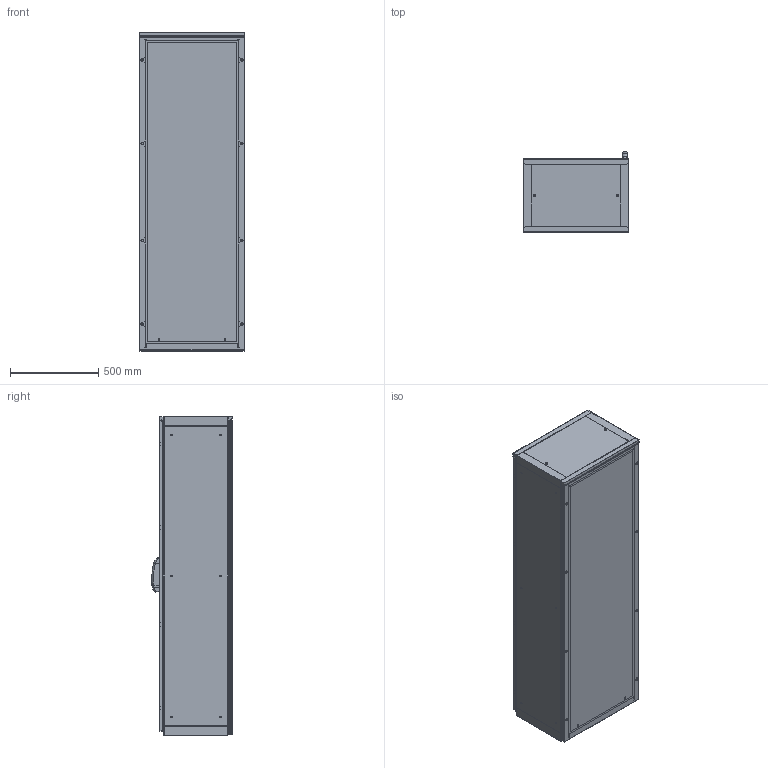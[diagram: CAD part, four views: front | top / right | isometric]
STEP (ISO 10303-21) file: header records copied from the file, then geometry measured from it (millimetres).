
FILE_DESCRIPTION (( 'STEP AP203' ), '1' );
FILE_NAME ('EMOX061804PR.STEP', '2025-06-03T09:19:10', ( '' ), ( '' ), 'SwSTEP 2.0', 'SolidWorks 2022', '' );
FILE_SCHEMA (( 'CONFIG_CONTROL_DESIGN' ));
Length unit declared in the file: millimetre
Products named in the file (9): AR_ENUX_nuova_maniglia_mesan; AR_EMOX_Porta_singola_2.0_0600x1800_ANT; AR_EMOX_Tegolino_0600x0100; AR_EMOX_Piastra_frontale_2.5_0600x1800; AR_EMOX_Tegolino_0600x0050; AR_EMOX_montaggio_porta_singlola_2.0_0600x1800_ANT_DX; AR_EMOX_Retro_singolo_0600x1800; EMOX061804PR; AR_EMOX_struttura_0600x1800x0400
Assembly tree (9 placements, depth 3):
  EMOX061804PR
    AR_EMOX_struttura_0600x1800x0400
    AR_EMOX_montaggio_porta_singlola_2.0_0600x1800_ANT_DX
      AR_EMOX_Porta_singola_2.0_0600x1800_ANT
      AR_ENUX_nuova_maniglia_mesan
    AR_EMOX_Retro_singolo_0600x1800
    AR_EMOX_Tegolino_0600x0050  x2
    AR_EMOX_Tegolino_0600x0100
    AR_EMOX_Piastra_frontale_2.5_0600x1800
Bounding box: 600 x 456.5 x 1809 mm (x, y, z)
Volume: 11344472.7 mm3; surface area: 12986927.9 mm2
Topology: 8 solids, 8 shells, 2177 faces, 6065 edges, 3892 vertices
Faces by surface type: plane 1165, cylinder 893, cone 40, torus 34, bspline 25, sphere 20
Entity records: 73893 total; most frequent: CARTESIAN_POINT 15554, DIRECTION 11924, ORIENTED_EDGE 11786, EDGE_CURVE 5893, AXIS2_PLACEMENT_3D 3999, LINE 3926, VECTOR 3926, VERTEX_POINT 3812
